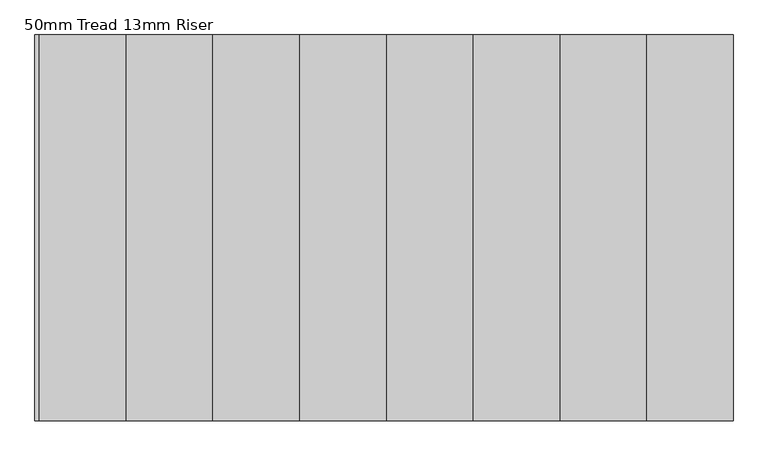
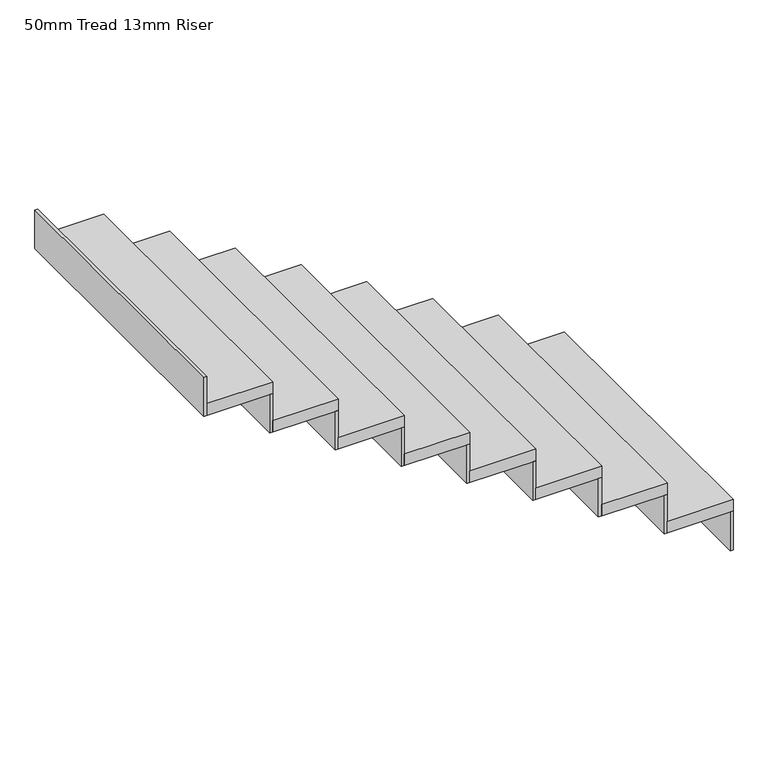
"""IFC4 building model written with IfcOpenShell, lengths in millimetres: stair flight geometry, 50mm Tread 13mm Riser."""

from ifc_helpers import new_model, si_unit, frame, origin, place, context, project, spatial, polyline, outline, extrude, source, transform, mapped, element, save


def stair_flight_50mm_tread_13mm_riser_e2b574ec(model_context):
    return source(origin(), model_context, "Body", "SweptSolid", [
        extrude(outline(polyline([(-75811.0913038, 13342.1710387), (-75798.5913038, 13342.1710387), (-75798.5913038, 12142.1710387), (-75811.0913038, 12142.1710387), (-75811.0913038, 13342.1710387)])), frame((0.0, 0.0, 43597.5), z_axis=(0.0, 0.0, 1.0), x_axis=(1.0, 0.0, 0.0)), (0.0, 0.0, 1.0), 167.5),
        extrude(outline(polyline([(-76068.5913038, 12142.1710387), (-76068.5913038, 13342.1710387), (-75798.5913038, 13342.1710387), (-75798.5913038, 12142.1710387), (-76068.5913038, 12142.1710387)])), frame((0.0, 0.0, 43765.0), z_axis=(0.0, 0.0, 1.0), x_axis=(1.0, 0.0, 0.0)), (0.0, 0.0, 1.0), 50.0),
        extrude(outline(polyline([(-76081.0913038, 13342.1710387), (-76068.5913038, 13342.1710387), (-76068.5913038, 12142.1710387), (-76081.0913038, 12142.1710387), (-76081.0913038, 13342.1710387)])), frame((0.0, 0.0, 43765.0), z_axis=(0.0, 0.0, 1.0), x_axis=(1.0, 0.0, 0.0)), (0.0, 0.0, 1.0), 167.5),
        extrude(outline(polyline([(-76338.5913038, 12142.1710387), (-76338.5913038, 13342.1710387), (-76068.5913038, 13342.1710387), (-76068.5913038, 12142.1710387), (-76338.5913038, 12142.1710387)])), frame((0.0, 0.0, 43932.5), z_axis=(0.0, 0.0, 1.0), x_axis=(1.0, 0.0, 0.0)), (0.0, 0.0, 1.0), 50.0),
        extrude(outline(polyline([(-76351.0913038, 13342.1710387), (-76338.5913038, 13342.1710387), (-76338.5913038, 12142.1710387), (-76351.0913038, 12142.1710387), (-76351.0913038, 13342.1710387)])), frame((0.0, 0.0, 43932.5), z_axis=(0.0, 0.0, 1.0), x_axis=(1.0, 0.0, 0.0)), (0.0, 0.0, 1.0), 167.5),
        extrude(outline(polyline([(-76608.5913038, 12142.1710387), (-76608.5913038, 13342.1710387), (-76338.5913038, 13342.1710387), (-76338.5913038, 12142.1710387), (-76608.5913038, 12142.1710387)])), frame((0.0, 0.0, 44100.0), z_axis=(0.0, 0.0, 1.0), x_axis=(1.0, 0.0, 0.0)), (0.0, 0.0, 1.0), 50.0),
        extrude(outline(polyline([(-76621.0913038, 13342.1710387), (-76608.5913038, 13342.1710387), (-76608.5913038, 12142.1710387), (-76621.0913038, 12142.1710387), (-76621.0913038, 13342.1710387)])), frame((0.0, 0.0, 44100.0), z_axis=(0.0, 0.0, 1.0), x_axis=(1.0, 0.0, 0.0)), (0.0, 0.0, 1.0), 167.5),
        extrude(outline(polyline([(-76878.5913038, 12142.1710387), (-76878.5913038, 13342.1710387), (-76608.5913038, 13342.1710387), (-76608.5913038, 12142.1710387), (-76878.5913038, 12142.1710387)])), frame((0.0, 0.0, 44267.5), z_axis=(0.0, 0.0, 1.0), x_axis=(1.0, 0.0, 0.0)), (0.0, 0.0, 1.0), 50.0),
        extrude(outline(polyline([(-76891.0913038, 13342.1710387), (-76878.5913038, 13342.1710387), (-76878.5913038, 12142.1710387), (-76891.0913038, 12142.1710387), (-76891.0913038, 13342.1710387)])), frame((0.0, 0.0, 44267.5), z_axis=(0.0, 0.0, 1.0), x_axis=(1.0, 0.0, 0.0)), (0.0, 0.0, 1.0), 167.5),
        extrude(outline(polyline([(-77148.5913038, 12142.1710387), (-77148.5913038, 13342.1710387), (-76878.5913038, 13342.1710387), (-76878.5913038, 12142.1710387), (-77148.5913038, 12142.1710387)])), frame((0.0, 0.0, 44435.0), z_axis=(0.0, 0.0, 1.0), x_axis=(1.0, 0.0, 0.0)), (0.0, 0.0, 1.0), 50.0),
        extrude(outline(polyline([(-77161.0913038, 13342.1710387), (-77148.5913038, 13342.1710387), (-77148.5913038, 12142.1710387), (-77161.0913038, 12142.1710387), (-77161.0913038, 13342.1710387)])), frame((0.0, 0.0, 44435.0), z_axis=(0.0, 0.0, 1.0), x_axis=(1.0, 0.0, 0.0)), (0.0, 0.0, 1.0), 167.5),
        extrude(outline(polyline([(-77418.5913038, 12142.1710387), (-77418.5913038, 13342.1710387), (-77148.5913038, 13342.1710387), (-77148.5913038, 12142.1710387), (-77418.5913038, 12142.1710387)])), frame((0.0, 0.0, 44602.5), z_axis=(0.0, 0.0, 1.0), x_axis=(1.0, 0.0, 0.0)), (0.0, 0.0, 1.0), 50.0),
        extrude(outline(polyline([(-77431.0913038, 13342.1710387), (-77418.5913038, 13342.1710387), (-77418.5913038, 12142.1710387), (-77431.0913038, 12142.1710387), (-77431.0913038, 13342.1710387)])), frame((0.0, 0.0, 44602.5), z_axis=(0.0, 0.0, 1.0), x_axis=(1.0, 0.0, 0.0)), (0.0, 0.0, 1.0), 167.5),
        extrude(outline(polyline([(-77688.5913038, 12142.1710387), (-77688.5913038, 13342.1710387), (-77418.5913038, 13342.1710387), (-77418.5913038, 12142.1710387), (-77688.5913038, 12142.1710387)])), frame((0.0, 0.0, 44770.0), z_axis=(0.0, 0.0, 1.0), x_axis=(1.0, 0.0, 0.0)), (0.0, 0.0, 1.0), 50.0),
        extrude(outline(polyline([(-77701.0913038, 13342.1710387), (-77688.5913038, 13342.1710387), (-77688.5913038, 12142.1710387), (-77701.0913038, 12142.1710387), (-77701.0913038, 13342.1710387)])), frame((0.0, 0.0, 44770.0), z_axis=(0.0, 0.0, 1.0), x_axis=(1.0, 0.0, 0.0)), (0.0, 0.0, 1.0), 167.5),
        extrude(outline(polyline([(-77971.0913038, 13342.1710387), (-77958.5913038, 13342.1710387), (-77958.5913038, 12142.1710387), (-77971.0913038, 12142.1710387), (-77971.0913038, 13342.1710387)])), frame((0.0, 0.0, 44937.5), z_axis=(0.0, 0.0, 1.0), x_axis=(1.0, 0.0, 0.0)), (0.0, 0.0, 1.0), 167.5),
        extrude(outline(polyline([(-77958.5913038, 12142.1710387), (-77958.5913038, 13342.1710387), (-77688.5913038, 13342.1710387), (-77688.5913038, 12142.1710387), (-77958.5913038, 12142.1710387)])), frame((0.0, 0.0, 44937.5), z_axis=(0.0, 0.0, 1.0), x_axis=(1.0, 0.0, 0.0)), (0.0, 0.0, 1.0), 50.0),
    ])


if __name__ == "__main__":
    model = new_model("IFC4")
    model_context = context("Model", 3, world=origin())
    ifc_project = project(units=[si_unit("LENGTHUNIT", "METRE", prefix="MILLI")], contexts=[model_context])
    site = spatial("IfcSite", under=ifc_project)
    building = spatial("IfcBuilding", under=site)
    placement = place(None, origin())
    stair_flight_50mm_tread_13mm_riser_shape = stair_flight_50mm_tread_13mm_riser_e2b574ec(model_context)
    element("IfcStairFlight", 1, ObjectType="50mm Tread 13mm Riser", at=placement, inside=building, context=model_context, shape_type="MappedRepresentation", body=[
        mapped(stair_flight_50mm_tread_13mm_riser_shape, transform((0.0, 0.0, 0.0), x_axis=(1.0, 0.0, 0.0), y_axis=(0.0, 1.0, 0.0), z_axis=(0.0, 0.0, 1.0))),
    ])
    save(model, "model.ifc")
